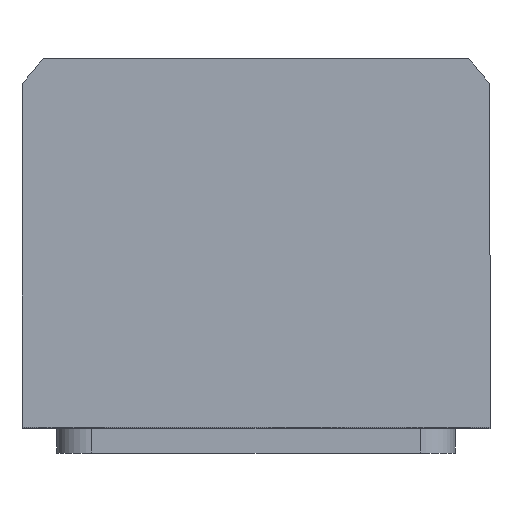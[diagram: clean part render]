
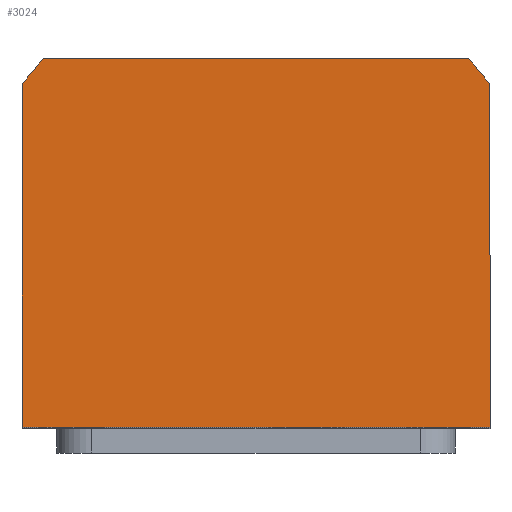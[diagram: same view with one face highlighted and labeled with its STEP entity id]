
A CAD part, top view. The second image highlights one B-rep face of the part: STEP entity #3024.
In plain terms, the highlighted planar face has unit normal (0, 0, 1).
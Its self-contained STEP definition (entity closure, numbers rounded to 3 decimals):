
#101 = DIRECTION ( 'NONE',  ( 1., 0., 0. ) ) ;
#348 = CARTESIAN_POINT ( 'NONE',  ( -47., -34., 77.5 ) ) ;
#358 = ORIENTED_EDGE ( 'NONE', *, *, #3947, .T. ) ;
#1317 = CARTESIAN_POINT ( 'NONE',  ( 47., -34., 77.5 ) ) ;
#1796 = VECTOR ( 'NONE', #5660, 1000. ) ;
#1923 = VERTEX_POINT ( 'NONE', #9521 ) ;
#2184 = CARTESIAN_POINT ( 'NONE',  ( 47., 34.832, 77.5 ) ) ;
#2543 = CIRCLE ( 'NONE', #13207, 58.5 ) ;
#3024 = ADVANCED_FACE ( 'NONE', ( #14164 ), #6971, .T. ) ;
#3544 = ORIENTED_EDGE ( 'NONE', *, *, #6068, .T. ) ;
#3613 = LINE ( 'NONE', #9846, #9207 ) ;
#3947 = EDGE_CURVE ( 'NONE', #14233, #9045, #12161, .T. ) ;
#4131 = ORIENTED_EDGE ( 'NONE', *, *, #7488, .T. ) ;
#4757 = CARTESIAN_POINT ( 'NONE',  ( 0., 0., 77.5 ) ) ;
#5261 = EDGE_CURVE ( 'NONE', #9045, #7508, #3613, .T. ) ;
#5267 = CARTESIAN_POINT ( 'NONE',  ( 0., 0., 77.5 ) ) ;
#5375 = ORIENTED_EDGE ( 'NONE', *, *, #14774, .T. ) ;
#5660 = DIRECTION ( 'NONE',  ( 0., 1., 0. ) ) ;
#6068 = EDGE_CURVE ( 'NONE', #1923, #8504, #2543, .T. ) ;
#6742 = VECTOR ( 'NONE', #14155, 1000. ) ;
#6936 = LINE ( 'NONE', #7989, #6742 ) ;
#6971 = PLANE ( 'NONE',  #13827 ) ;
#7488 = EDGE_CURVE ( 'NONE', #8504, #14233, #14788, .T. ) ;
#7508 = VERTEX_POINT ( 'NONE', #348 ) ;
#7989 = CARTESIAN_POINT ( 'NONE',  ( 47., -34., 77.5 ) ) ;
#8014 = EDGE_CURVE ( 'NONE', #13619, #1923, #10444, .T. ) ;
#8504 = VERTEX_POINT ( 'NONE', #9744 ) ;
#8608 = DIRECTION ( 'NONE',  ( 0., 0., 1. ) ) ;
#9045 = VERTEX_POINT ( 'NONE', #11238 ) ;
#9207 = VECTOR ( 'NONE', #12169, 1000. ) ;
#9390 = DIRECTION ( 'NONE',  ( 0., 0., 1. ) ) ;
#9521 = CARTESIAN_POINT ( 'NONE',  ( 47., 34.832, 77.5 ) ) ;
#9576 = ORIENTED_EDGE ( 'NONE', *, *, #5261, .T. ) ;
#9724 = VECTOR ( 'NONE', #11778, 1000. ) ;
#9744 = CARTESIAN_POINT ( 'NONE',  ( 42.688, 40., 77.5 ) ) ;
#9846 = CARTESIAN_POINT ( 'NONE',  ( -47., -34., 77.5 ) ) ;
#9857 = DIRECTION ( 'NONE',  ( 1., 0., 0. ) ) ;
#10444 = LINE ( 'NONE', #2184, #1796 ) ;
#10522 = CARTESIAN_POINT ( 'NONE',  ( -42.688, 40., 77.5 ) ) ;
#10998 = AXIS2_PLACEMENT_3D ( 'NONE', #13187, #8608, #9857 ) ;
#11238 = CARTESIAN_POINT ( 'NONE',  ( -47., 34.832, 77.5 ) ) ;
#11778 = DIRECTION ( 'NONE',  ( -1., 0., 0. ) ) ;
#12161 = CIRCLE ( 'NONE', #10998, 58.5 ) ;
#12169 = DIRECTION ( 'NONE',  ( 0., -1., 0. ) ) ;
#13187 = CARTESIAN_POINT ( 'NONE',  ( 0., 0., 77.5 ) ) ;
#13207 = AXIS2_PLACEMENT_3D ( 'NONE', #5267, #13361, #14524 ) ;
#13361 = DIRECTION ( 'NONE',  ( 0., 0., 1. ) ) ;
#13619 = VERTEX_POINT ( 'NONE', #1317 ) ;
#13827 = AXIS2_PLACEMENT_3D ( 'NONE', #4757, #9390, #101 ) ;
#13925 = ORIENTED_EDGE ( 'NONE', *, *, #8014, .T. ) ;
#14155 = DIRECTION ( 'NONE',  ( 1., 0., 0. ) ) ;
#14164 = FACE_OUTER_BOUND ( 'NONE', #14200, .T. ) ;
#14172 = CARTESIAN_POINT ( 'NONE',  ( -42.688, 40., 77.5 ) ) ;
#14200 = EDGE_LOOP ( 'NONE', ( #5375, #13925, #3544, #4131, #358, #9576 ) ) ;
#14233 = VERTEX_POINT ( 'NONE', #14172 ) ;
#14524 = DIRECTION ( 'NONE',  ( 1., 0., 0. ) ) ;
#14774 = EDGE_CURVE ( 'NONE', #7508, #13619, #6936, .T. ) ;
#14788 = LINE ( 'NONE', #10522, #9724 ) ;
